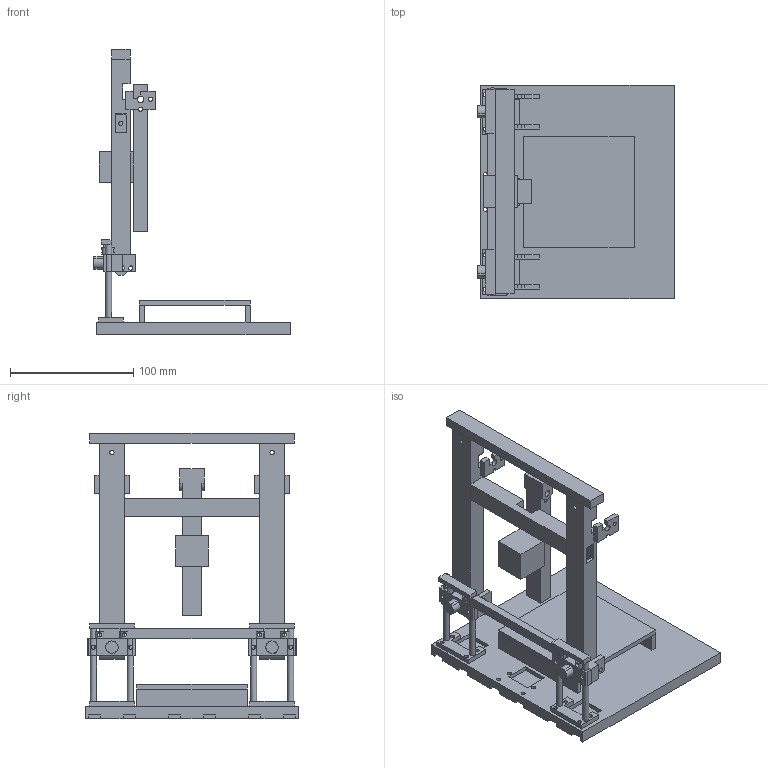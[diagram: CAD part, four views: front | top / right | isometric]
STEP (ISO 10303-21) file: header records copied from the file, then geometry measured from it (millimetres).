
FILE_DESCRIPTION(('Open CASCADE Model'),'2;1');
FILE_NAME('F09_asm_lifted','2026-11-15T22:32:15',('Author'),( 'Open CASCADE'),'Open CASCADE STEP processor 8.0','build123d', 'Unknown');
FILE_SCHEMA(('AUTOMOTIVE_DESIGN { 1 0 10303 214 1 1 1 1 }'));
Length unit declared in the file: millimetre
Products named in the file (10): F09_asm_lifted; BASE; BED; TWR_1; CAR_1; SYNC; COL_1; XBAR; BRG; ARM
Assembly tree (12 placements, depth 2):
  F09_asm_lifted
    BASE
    BED
    TWR_1  x2
    CAR_1  x2
    SYNC
    COL_1  x2
    XBAR
    BRG
    ARM
Bounding box: 159.5 x 173.5 x 231.5 mm (x, y, z)
Volume: 489199.8 mm3; surface area: 181632.6 mm2
Topology: 12 solids, 12 shells, 507 faces, 1412 edges, 928 vertices
Faces by surface type: plane 385, cylinder 122
Full cylindrical faces by diameter (mm): 3.4 x65, 5 x4, 5.3 x7, 5.4 x4
Entity records: 28284 total; most frequent: CARTESIAN_POINT 10136, DIRECTION 3086, LINE 1934, VECTOR 1934, ORIENTED_EDGE 1852, PCURVE 1852, DEFINITIONAL_REPRESENTATION 1852, EDGE_CURVE 926
